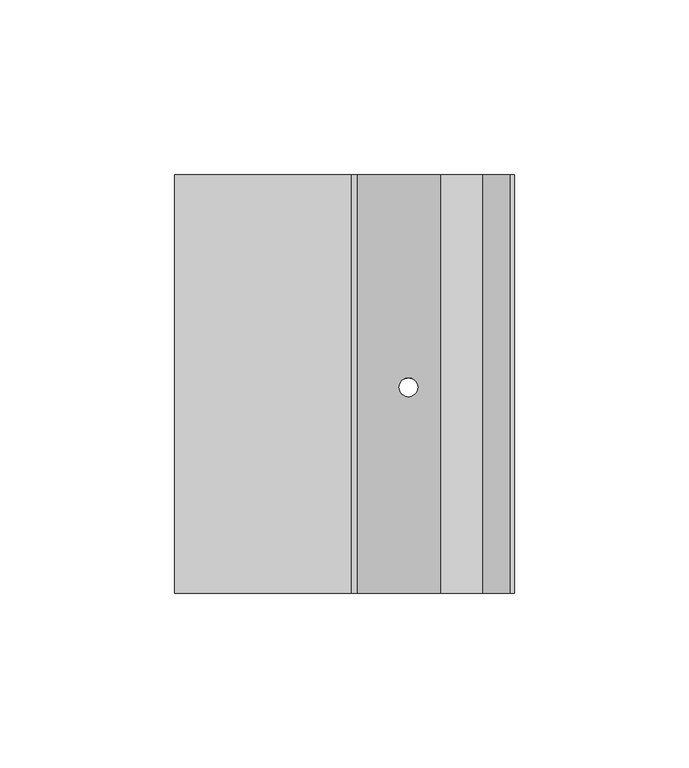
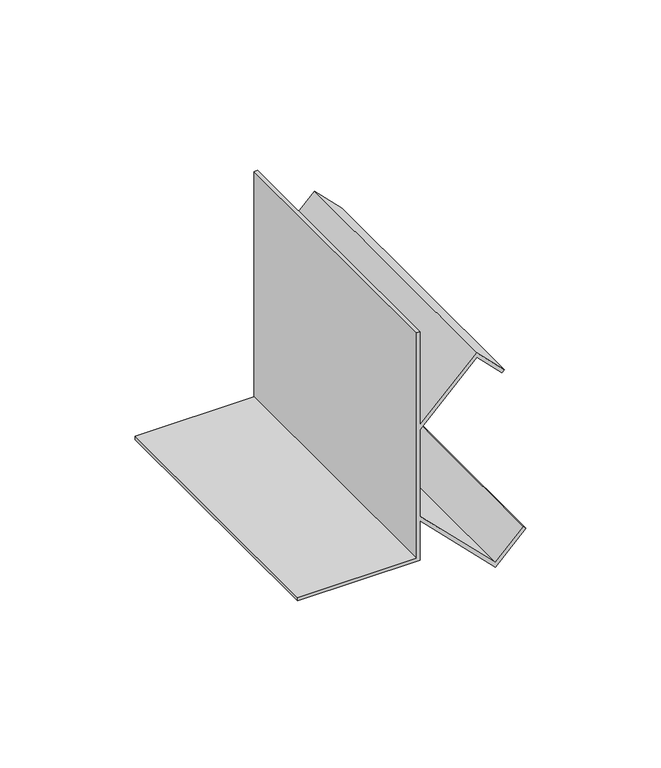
"""IFC4 building model written with IfcOpenShell, lengths in millimetres: proxy geometry, Mechanical Fittings & Accessories31 : Mechanical Fittings & Accessories."""

from ifc_helpers import new_model, si_unit, frame, origin, place, context, project, spatial, polyline, ellipse_curve, source, transform, mapped, element, save
from ifc_brep_helpers import plane_surface, revolved_surface, advanced_brep


def generic_models_c5d6954f(model_context):
    return source(origin(), model_context, "Body", "AdvancedBrep", [
        advanced_brep(
        [(-14670.9639562, 827.5745236, 4114.8), (-14721.7639562, 827.5745236, 4114.8), (-14721.7639562, 827.5745236, 4113.3117188), (-14669.475675, 827.5745236, 4113.3117188), (-14669.475675, 827.5745236, 4131.1383509), (-14637.365914, 827.5745236, 4099.0285899), (-14624.3869427, 827.5745236, 4112.0075612), (-14625.4393164, 827.5745236, 4113.059935), (-14637.365914, 827.5745236, 4101.1333374), (-14669.475675, 827.5745236, 4133.2430984), (-14669.475675, 827.5745236, 4172.2761118), (-14645.303414, 827.5745236, 4196.4483729), (-14634.5674414, 827.5745236, 4185.7124003), (-14633.5150677, 827.5745236, 4186.7647741), (-14645.303414, 827.5745236, 4198.5531204), (-14669.475675, 827.5745236, 4174.3808594), (-14669.475675, 827.5745236, 4216.4), (-14670.9639562, 827.5745236, 4216.4), (-14670.9639562, 947.5426707, 4114.8), (-14670.9639562, 947.5426707, 4216.4), (-14669.475675, 947.5426707, 4216.4), (-14669.475675, 947.5426707, 4174.3808594), (-14645.303414, 947.5426707, 4198.5531204), (-14633.5150677, 947.5426707, 4186.7647741), (-14634.5674414, 947.5426707, 4185.7124003), (-14645.303414, 947.5426707, 4196.4483729), (-14669.475675, 947.5426707, 4172.2761118), (-14669.475675, 947.5426707, 4133.2430984), (-14637.365914, 947.5426707, 4101.1333374), (-14625.4393164, 947.5426707, 4113.059935), (-14624.3869427, 947.5426707, 4112.0075612), (-14637.365914, 947.5426707, 4099.0285899), (-14669.475675, 947.5426707, 4131.1383509), (-14669.475675, 947.5426707, 4113.3117188), (-14721.7639562, 947.5426707, 4113.3117188), (-14721.7639562, 947.5426707, 4114.8), (-14657.3617646, 886.5972731, 4119.0244406), (-14652.0223978, 886.5972731, 4113.6850737), (-14652.0223978, 886.5972731, 4115.7898213), (-14657.3617646, 886.5972731, 4121.1291881), (-14657.3617646, 886.5972731, 4184.3900222), (-14652.0223978, 886.5972731, 4189.729389), (-14652.0223978, 886.5972731, 4191.8341365), (-14657.3617646, 886.5972731, 4186.4947697)],
        [
            (0, 1),
            (1, 2),
            (2, 3),
            (3, 4),
            (4, 5),
            (5, 6),
            (6, 7),
            (7, 8),
            (8, 9),
            (9, 10),
            (10, 11),
            (11, 12),
            (12, 13),
            (13, 14),
            (14, 15),
            (15, 16),
            (16, 17),
            (17, 0),
            (18, 19),
            (19, 20),
            (20, 21),
            (21, 22),
            (22, 23),
            (23, 24),
            (24, 25),
            (25, 26),
            (26, 27),
            (27, 28),
            (28, 29),
            (29, 30),
            (30, 31),
            (31, 32),
            (32, 33),
            (33, 34),
            (34, 35),
            (35, 18),
            (0, 18),
            (35, 1),
            (34, 2),
            (33, 3),
            (32, 4),
            (31, 5),
            (36, 37, ellipse_curve(frame((-14654.6920812, 886.5972731, 4116.3547571), z_axis=(0.7071067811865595, 0.0, 0.7071067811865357), x_axis=(-0.7071067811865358, 0.0, 0.7071067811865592)), 3.7755025, 2.6696834)),
            (37, 36, ellipse_curve(frame((-14654.6920812, 886.5972731, 4116.3547571), z_axis=(0.7071067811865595, 0.0, 0.7071067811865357), x_axis=(-0.7071067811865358, 0.0, 0.7071067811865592)), 3.7755025, 2.6696834)),
            (30, 6),
            (29, 7),
            (28, 8),
            (27, 9),
            (38, 39, ellipse_curve(frame((-14654.6920812, 886.5972731, 4118.4595047), z_axis=(-0.7071067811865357, 0.0, -0.7071067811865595), x_axis=(-0.7071067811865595, 0.0, 0.7071067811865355)), 3.7755025, 2.6696834)),
            (39, 38, ellipse_curve(frame((-14654.6920812, 886.5972731, 4118.4595047), z_axis=(-0.7071067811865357, 0.0, -0.7071067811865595), x_axis=(-0.7071067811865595, 0.0, 0.7071067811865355)), 3.7755025, 2.6696834)),
            (26, 10),
            (25, 11),
            (40, 41, ellipse_curve(frame((-14654.6920812, 886.5972731, 4187.0597056), z_axis=(-0.7071067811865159, 0.0, 0.7071067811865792), x_axis=(0.7071067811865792, 0.0, 0.7071067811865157)), 3.7755025, 2.6696834)),
            (41, 40, ellipse_curve(frame((-14654.6920812, 886.5972731, 4187.0597056), z_axis=(-0.7071067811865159, 0.0, 0.7071067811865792), x_axis=(0.7071067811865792, 0.0, 0.7071067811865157)), 3.7755025, 2.6696834)),
            (24, 12),
            (23, 13),
            (22, 14),
            (21, 15),
            (42, 43, ellipse_curve(frame((-14654.6920812, 886.5972731, 4189.1644531), z_axis=(0.7071067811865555, 0.0, -0.7071067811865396), x_axis=(0.7071067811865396, 0.0, 0.7071067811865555)), 3.7755025, 2.6696834)),
            (43, 42, ellipse_curve(frame((-14654.6920812, 886.5972731, 4189.1644531), z_axis=(0.7071067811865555, 0.0, -0.7071067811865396), x_axis=(0.7071067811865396, 0.0, 0.7071067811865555)), 3.7755025, 2.6696834)),
            (20, 16),
            (19, 17),
            (36, 39),
            (38, 37),
            (40, 43),
            (42, 41),
        ],
        [
            plane_surface(frame((-14721.7639562, 827.5745236, 4114.8), z_axis=(0.0, -1.0, 0.0), x_axis=(-1.0, 0.0, 0.0))),
            plane_surface(frame((-14721.7639562, 947.5426707, 4114.8), z_axis=(0.0, 1.0, 0.0), x_axis=(1.0, 0.0, 0.0))),
            plane_surface(frame((-14670.9639562, 827.5745236, 4114.8), z_axis=(0.0, 0.0, 1.0), x_axis=(0.0, 1.0, 0.0))),
            plane_surface(frame((-14721.7639562, 827.5745236, 4114.8), z_axis=(-1.0, 0.0, 0.0), x_axis=(0.0, 1.0, 0.0))),
            plane_surface(frame((-14721.7639562, 827.5745236, 4113.3117188), z_axis=(0.0, 0.0, -1.0), x_axis=(0.0, 1.0, 0.0))),
            plane_surface(frame((-14669.475675, 827.5745236, 4113.3117188), z_axis=(1.0, 0.0, 0.0), x_axis=(0.0, 1.0, 0.0))),
            plane_surface(frame((-14669.475675, 827.5745236, 4131.1383509), z_axis=(-0.7071067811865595, 0.0, -0.7071067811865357), x_axis=(0.0, 1.0, 0.0))),
            plane_surface(frame((-14637.365914, 827.5745236, 4099.0285899), z_axis=(0.7071067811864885, 0.0, -0.7071067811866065), x_axis=(0.0, 1.0, 0.0))),
            plane_surface(frame((-14624.3869427, 827.5745236, 4112.0075612), z_axis=(0.7071067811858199, 0.0, 0.7071067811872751), x_axis=(0.0, 1.0, 0.0))),
            plane_surface(frame((-14625.4393164, 827.5745236, 4113.059935), z_axis=(-0.7071067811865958, 0.0, 0.7071067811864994), x_axis=(0.0, 1.0, 0.0))),
            plane_surface(frame((-14637.365914, 827.5745236, 4101.1333374), z_axis=(0.7071067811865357, 0.0, 0.7071067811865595), x_axis=(0.0, 1.0, 0.0))),
            plane_surface(frame((-14669.475675, 827.5745236, 4133.2430984), z_axis=(1.0, 0.0, 0.0), x_axis=(0.0, 1.0, 0.0))),
            plane_surface(frame((-14669.475675, 827.5745236, 4172.2761118), z_axis=(0.7071067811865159, 0.0, -0.7071067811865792), x_axis=(0.0, 1.0, 0.0))),
            plane_surface(frame((-14645.303414, 827.5745236, 4196.4483729), z_axis=(-0.7071067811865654, 0.0, -0.7071067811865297), x_axis=(0.0, 1.0, 0.0))),
            plane_surface(frame((-14634.5674414, 827.5745236, 4185.7124003), z_axis=(0.7071067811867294, 0.0, -0.7071067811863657), x_axis=(0.0, 1.0, 0.0))),
            plane_surface(frame((-14633.5150677, 827.5745236, 4186.7647741), z_axis=(0.707106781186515, 0.0, 0.70710678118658), x_axis=(0.0, 1.0, 0.0))),
            plane_surface(frame((-14645.303414, 827.5745236, 4198.5531204), z_axis=(-0.7071067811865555, 0.0, 0.7071067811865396), x_axis=(0.0, 1.0, 0.0))),
            plane_surface(frame((-14669.475675, 827.5745236, 4174.3808594), z_axis=(1.0, 0.0, 0.0), x_axis=(0.0, 1.0, 0.0))),
            plane_surface(frame((-14669.475675, 827.5745236, 4216.4), z_axis=(0.0, 0.0, 1.0), x_axis=(0.0, 1.0, 0.0))),
            plane_surface(frame((-14670.9639562, 827.5745236, 4216.4), z_axis=(-1.0, 0.0, 0.0), x_axis=(0.0, 1.0, 0.0))),
            revolved_surface(polyline([(-14652.022397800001, 886.5972731, 4121.129188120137), (-14652.022397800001, 886.5972731, 4113.685073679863)]), (-14654.6920812, 886.5972731, 4097.2034211), (0.0, 0.0, 1.0)),
            revolved_surface(polyline([(-14652.022397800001, 886.5972731, 4191.834136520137), (-14652.022397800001, 886.5972731, 4184.390022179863)]), (-14654.6920812, 886.5972731, 4097.2034211), (0.0, 0.0, 1.0)),
        ],
        [
            (0, [[1, 2, 3, 4, 5, 6, 7, 8, 9, 10, 11, 12, 13, 14, 15, 16, 17, 18]]),
            (1, [[19, 20, 21, 22, 23, 24, 25, 26, 27, 28, 29, 30, 31, 32, 33, 34, 35, 36]]),
            (2, [[-1, 37, -36, 38]]),
            (3, [[-2, -38, -35, 39]]),
            (4, [[-3, -39, -34, 40]]),
            (5, [[-4, -40, -33, 41]]),
            (6, [[-5, -41, -32, 42], [43, 44]]),
            (7, [[-6, -42, -31, 45]]),
            (8, [[-7, -45, -30, 46]]),
            (9, [[-8, -46, -29, 47]]),
            (10, [[-9, -47, -28, 48], [49, 50]]),
            (11, [[-10, -48, -27, 51]]),
            (12, [[-11, -51, -26, 52], [53, 54]]),
            (13, [[-12, -52, -25, 55]]),
            (14, [[-13, -55, -24, 56]]),
            (15, [[-14, -56, -23, 57]]),
            (16, [[-15, -57, -22, 58], [59, 60]]),
            (17, [[-16, -58, -21, 61]]),
            (18, [[-17, -61, -20, 62]]),
            (19, [[-18, -62, -19, -37]]),
            (20, [[63, -49, 64, -43]]),
            (21, [[65, -59, 66, -53]]),
            (20, [[-63, -44, -64, -50]]),
            (21, [[-65, -54, -66, -60]]),
        ],
    ),
    ])


if __name__ == "__main__":
    model = new_model("IFC4")
    model_context = context("Model", 3, world=origin())
    ifc_project = project(units=[si_unit("LENGTHUNIT", "METRE", prefix="MILLI")], contexts=[model_context])
    site = spatial("IfcSite", under=ifc_project)
    building = spatial("IfcBuilding", under=site)
    placement = place(None, origin())
    generic_models_shape = generic_models_c5d6954f(model_context)
    element("IfcBuildingElementProxy", 1, Name="Mechanical Fittings & Accessories31 : Mechanical Fittings & Accessories", ObjectType="Mechanical Fittings & Accessories31 : Mechanical Fittings & Accessories", at=placement, inside=building, context=model_context, shape_type="MappedRepresentation", body=[
        mapped(generic_models_shape, transform((0.0, 0.0, 0.0), x_axis=(1.0, 0.0, 0.0), y_axis=(0.0, 1.0, 0.0), z_axis=(0.0, 0.0, 1.0))),
    ])
    save(model, "model.ifc")
